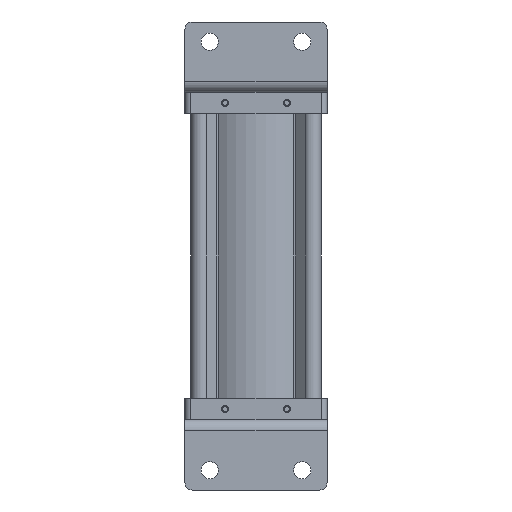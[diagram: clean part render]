
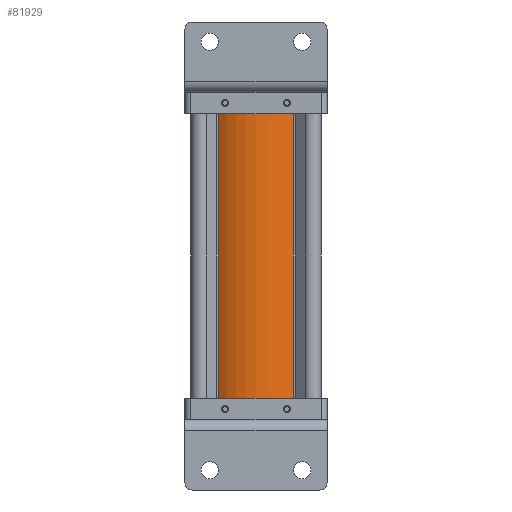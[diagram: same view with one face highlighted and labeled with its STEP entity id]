
A CAD part, front view. The second image highlights one B-rep face of the part: STEP entity #81929.
In plain terms, the highlighted cylindrical face has radius 52.25 mm (diameter 104.5 mm), a partial arc.
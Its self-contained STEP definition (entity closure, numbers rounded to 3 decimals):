
#3577 = VERTEX_POINT ( 'NONE', #18437 ) ;
#3600 = FACE_OUTER_BOUND ( 'NONE', #74599, .T. ) ;
#6554 = LINE ( 'NONE', #58818, #83655 ) ;
#13609 = ORIENTED_EDGE ( 'NONE', *, *, #23500, .T. ) ;
#18437 = CARTESIAN_POINT ( 'NONE',  ( -30.238, -42.611, 247.5 ) ) ;
#21198 = VERTEX_POINT ( 'NONE', #52813 ) ;
#23500 = EDGE_CURVE ( 'NONE', #3577, #71083, #75214, .T. ) ;
#25068 = CIRCLE ( 'NONE', #42476, 52.25 ) ;
#25660 = CARTESIAN_POINT ( 'NONE',  ( 0., 0., 247.5 ) ) ;
#27444 = DIRECTION ( 'NONE',  ( 0., 0., 1. ) ) ;
#29313 = VECTOR ( 'NONE', #78659, 1000. ) ;
#34189 = CARTESIAN_POINT ( 'NONE',  ( 0., 0., 247.5 ) ) ;
#35526 = CARTESIAN_POINT ( 'NONE',  ( 0., 0., 17.5 ) ) ;
#39895 = EDGE_CURVE ( 'NONE', #21198, #65049, #6554, .T. ) ;
#42007 = DIRECTION ( 'NONE',  ( 1., 0., 0. ) ) ;
#42476 = AXIS2_PLACEMENT_3D ( 'NONE', #35526, #59494, #89457 ) ;
#44080 = AXIS2_PLACEMENT_3D ( 'NONE', #25660, #96366, #64771 ) ;
#45812 = CARTESIAN_POINT ( 'NONE',  ( 30.238, -42.611, 247.5 ) ) ;
#47808 = CIRCLE ( 'NONE', #91117, 52.25 ) ;
#50739 = DIRECTION ( 'NONE',  ( 0., 0., 1. ) ) ;
#51999 = ORIENTED_EDGE ( 'NONE', *, *, #77061, .F. ) ;
#52632 = ORIENTED_EDGE ( 'NONE', *, *, #39895, .T. ) ;
#52813 = CARTESIAN_POINT ( 'NONE',  ( 30.238, -42.611, 17.5 ) ) ;
#56005 = ORIENTED_EDGE ( 'NONE', *, *, #97102, .T. ) ;
#58818 = CARTESIAN_POINT ( 'NONE',  ( 30.238, -42.611, 247.5 ) ) ;
#59494 = DIRECTION ( 'NONE',  ( 0., 0., 1. ) ) ;
#64771 = DIRECTION ( 'NONE',  ( -1., 0., 0. ) ) ;
#65049 = VERTEX_POINT ( 'NONE', #45812 ) ;
#70527 = CARTESIAN_POINT ( 'NONE',  ( -30.238, -42.611, 17.5 ) ) ;
#71083 = VERTEX_POINT ( 'NONE', #70527 ) ;
#71164 = CYLINDRICAL_SURFACE ( 'NONE', #44080, 52.25 ) ;
#74599 = EDGE_LOOP ( 'NONE', ( #56005, #52632, #51999, #13609 ) ) ;
#75214 = LINE ( 'NONE', #87756, #29313 ) ;
#77061 = EDGE_CURVE ( 'NONE', #3577, #65049, #47808, .T. ) ;
#78659 = DIRECTION ( 'NONE',  ( 0., 0., -1. ) ) ;
#81929 = ADVANCED_FACE ( 'NONE', ( #3600 ), #71164, .T. ) ;
#83655 = VECTOR ( 'NONE', #50739, 1000. ) ;
#87756 = CARTESIAN_POINT ( 'NONE',  ( -30.238, -42.611, 247.5 ) ) ;
#89457 = DIRECTION ( 'NONE',  ( 1., 0., 0. ) ) ;
#91117 = AXIS2_PLACEMENT_3D ( 'NONE', #34189, #27444, #42007 ) ;
#96366 = DIRECTION ( 'NONE',  ( 0., 0., -1. ) ) ;
#97102 = EDGE_CURVE ( 'NONE', #71083, #21198, #25068, .T. ) ;
